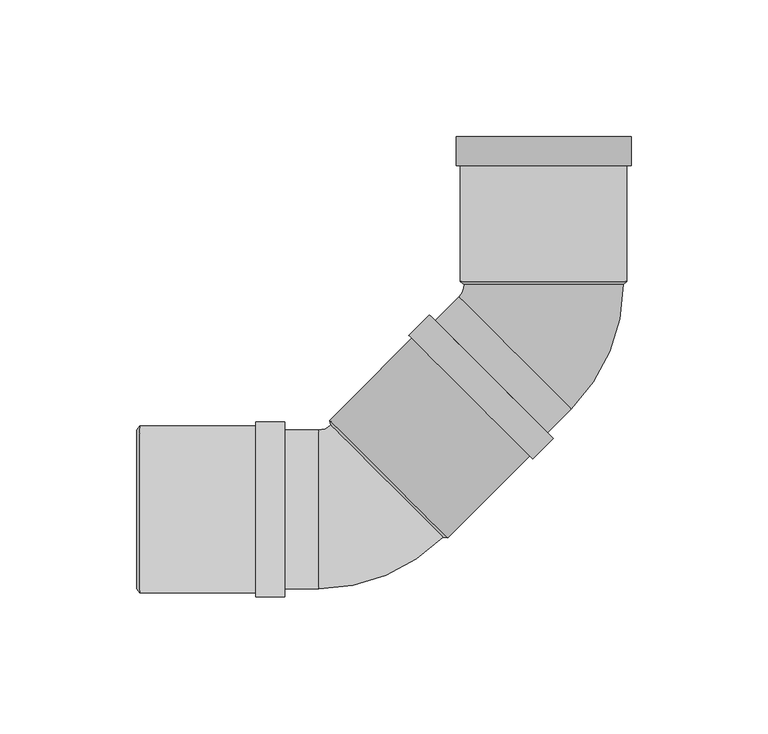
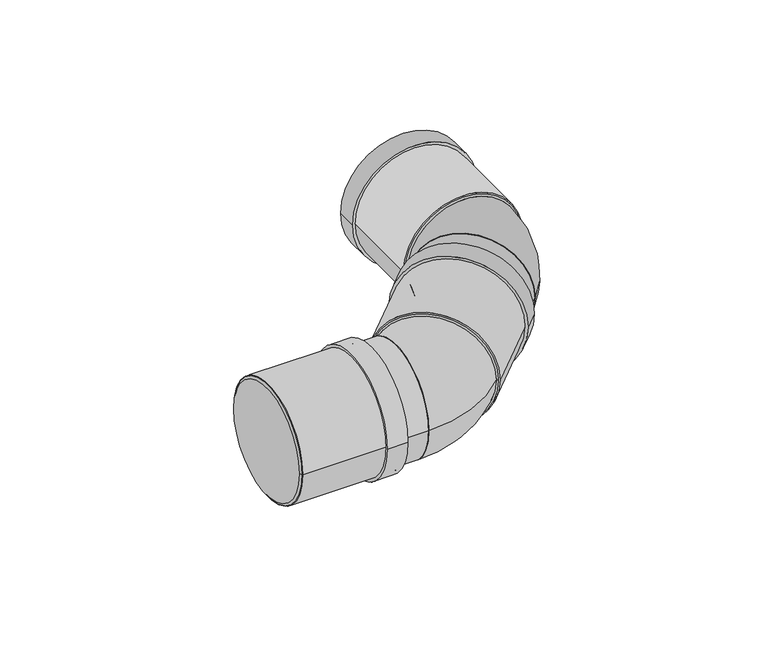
"""IFC4 building model written with IfcOpenShell, lengths in millimetres: pipe fitting geometry, Superdrain SK Bend_Composite 2x45 : Superdrain SK Bend_Composite 2x45."""

from ifc_helpers import new_model, si_unit, point, frame, origin, origin_2d, place, context, project, spatial, polyline, circle_curve, ellipse_curve, trimmed, segment, composite_curve, outline, extrude, source, transform, mapped, element, save
from ifc_brep_helpers import plane_surface, revolved_surface, advanced_brep


def pipe_fitting_b5ef0d84(model_context):
    return source(origin(), model_context, "Body", "SolidModel", [
        advanced_brep(
        [(29.0, 82.1994083, 0.0), (-29.0, 82.1994083, 0.0), (10.1823376, 36.7695526, 0.0), (-30.8298557, 77.7817459, 0.0)],
        [
            (0, 1, circle_curve(frame((0.0, 82.1994083, 0.0), z_axis=(0.0, 1.0, 0.0), x_axis=(-1.0, 0.0, 0.0)), 29.0)),
            (1, 0, circle_curve(frame((0.0, 82.1994083, 0.0), z_axis=(0.0, 1.0, 0.0), x_axis=(-1.0, 0.0, 0.0)), 29.0)),
            (2, 3, circle_curve(frame((-10.323759, 57.2756493, 0.0), z_axis=(-0.7071067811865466, -0.7071067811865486, 0.0), x_axis=(-0.7071067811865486, 0.7071067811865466, 0.0)), 29.0)),
            (3, 2, circle_curve(frame((-10.323759, 57.2756493, 0.0), z_axis=(-0.7071067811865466, -0.7071067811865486, 0.0), x_axis=(-0.7071067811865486, 0.7071067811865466, 0.0)), 29.0)),
            (3, 1, circle_curve(frame((-35.247518, 82.1994083, 0.0), z_axis=(0.0, 0.0, 1.0), x_axis=(0.707106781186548, 0.7071067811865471, 0.0)), 6.247518)),
            (0, 2, circle_curve(frame((-35.247518, 82.1994083, 0.0), z_axis=(0.0, 0.0, -1.0), x_axis=(0.707106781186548, 0.7071067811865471, 0.0)), 64.247518)),
        ],
        [
            plane_surface(frame((0.0, 82.1994083, 0.0), z_axis=(0.0, 1.0, 0.0), x_axis=(0.0, 0.0, -1.0))),
            plane_surface(frame((-10.323759, 57.2756493, 0.0), z_axis=(-0.7071067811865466, -0.7071067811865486, 0.0), x_axis=(0.0, 0.0, -1.0))),
            revolved_surface(trimmed(ellipse_curve(frame((-10.323759, 107.1231673, 0.0), z_axis=(0.7071067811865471, -0.707106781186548, 0.0), x_axis=(-0.707106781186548, -0.7071067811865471, 0.0)), 29.0, 29.0), [point((-30.8298557, 86.6170706, 0.0))], [point((10.1823376, 127.6292639, 0.0))], True, "CARTESIAN"), (-35.247518, 82.1994083, 0.0), (0.0, 0.0, 1.0)),
            revolved_surface(trimmed(ellipse_curve(frame((-10.323759, 107.1231673, 0.0), z_axis=(0.7071067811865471, -0.707106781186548, 0.0), x_axis=(-0.707106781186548, -0.7071067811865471, 0.0)), 29.0, 29.0), [point((10.1823376, 127.6292639, 0.0))], [point((-30.8298557, 86.6170706, 0.0))], True, "CARTESIAN"), (-35.247518, 82.1994083, 0.0), (0.0, 0.0, 1.0)),
        ],
        [
            (0, [[1, 2]]),
            (1, [[3, 4]]),
            (2, [[-4, 5, -1, 6]]),
            (3, [[-3, -6, -2, -5]]),
        ],
    ),
        extrude(outline(composite_curve([segment(trimmed(circle_curve(origin_2d(), 30.45), [point((0.0, 30.45))], [point((0.0, -30.45))], False, "CARTESIAN"), True, "CONTINUOUS"), segment(trimmed(circle_curve(origin_2d(), 30.45), [point((0.0, -30.45))], [point((0.0, 30.45))], False, "CARTESIAN"), True, "CONTINUOUS")], self_intersect=False), holes=[composite_curve([segment(trimmed(circle_curve(origin_2d(), 29.0), [point((0.0, 29.0))], [point((0.0, -29.0))], True, "CARTESIAN"), True, "CONTINUOUS"), segment(trimmed(circle_curve(origin_2d(), 29.0), [point((0.0, -29.0))], [point((0.0, 29.0))], True, "CARTESIAN"), True, "CONTINUOUS")], self_intersect=False)]), frame((0.0, 83.1994083, 0.0), z_axis=(0.0, 1.0, 0.0), x_axis=(0.0, 0.0, 1.0)), (0.0, 0.0, 1.0), 53.0),
        extrude(outline(composite_curve([segment(trimmed(circle_curve(origin_2d(), 31.9725), [point((0.0, -31.9725))], [point((0.0, 31.9725))], False, "CARTESIAN"), True, "CONTINUOUS"), segment(trimmed(circle_curve(origin_2d(), 31.9725), [point((0.0, 31.9725))], [point((0.0, -31.9725))], False, "CARTESIAN"), True, "CONTINUOUS")], self_intersect=False), holes=[composite_curve([segment(trimmed(circle_curve(origin_2d(), 29.0), [point((0.0, -29.0))], [point((0.0, 29.0))], True, "CARTESIAN"), True, "CONTINUOUS"), segment(trimmed(circle_curve(origin_2d(), 29.0), [point((0.0, 29.0))], [point((0.0, -29.0))], True, "CARTESIAN"), True, "CONTINUOUS")], self_intersect=False)]), frame((0.0, 125.5994083, 0.0), z_axis=(0.0, 1.0, 0.0), x_axis=(0.0, 0.0, 1.0)), (0.0, 0.0, 1.0), 10.6),
        advanced_brep(
        [(30.45, 83.1994083, 0.0), (-30.45, 83.1994083, 0.0), (29.0, 82.1994083, 0.0), (-29.0, 82.1994083, 0.0)],
        [
            (0, 1, circle_curve(frame((0.0, 83.1994083, 0.0), z_axis=(0.0, 1.0, 0.0), x_axis=(1.0, 0.0, 0.0)), 30.45)),
            (1, 0, circle_curve(frame((0.0, 83.1994083, 0.0), z_axis=(0.0, 1.0, 0.0), x_axis=(-1.0, 0.0, 0.0)), 30.45)),
            (2, 3, circle_curve(frame((0.0, 82.1994083, 0.0), z_axis=(0.0, -1.0, 0.0), x_axis=(-1.0, 0.0, 0.0)), 29.0)),
            (3, 2, circle_curve(frame((0.0, 82.1994083, 0.0), z_axis=(0.0, -1.0, 0.0), x_axis=(1.0, 0.0, 0.0)), 29.0)),
            (3, 1),
            (0, 2),
        ],
        [
            plane_surface(frame((0.0, 83.1994083, 0.0), z_axis=(0.0, 1.0, 0.0), x_axis=(0.0, 0.0, -1.0))),
            plane_surface(frame((0.0, 82.1994083, 0.0), z_axis=(0.0, -1.0, 0.0), x_axis=(0.0, 0.0, -1.0))),
            revolved_surface(polyline([(-28.999999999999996, 82.1994083, 0.0), (-30.45, 83.1994083, 0.0)]), (0.0, 62.1994083, 0.0), (0.0, 1.0, 0.0)),
            revolved_surface(polyline([(28.999999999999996, 82.1994083, 0.0), (30.45, 83.1994083, 0.0)]), (0.0, 62.1994083, 0.0), (0.0, 1.0, 0.0)),
        ],
        [
            (0, [[1, 2]]),
            (1, [[3, 4]]),
            (2, [[-4, 5, -1, 6]]),
            (3, [[-3, -6, -2, -5]]),
        ],
    ),
        extrude(outline(composite_curve([segment(trimmed(circle_curve(origin_2d(), 29.0), [point((0.0, -29.0000001))], [point((0.0, 28.9999999))], False, "CARTESIAN"), True, "CONTINUOUS"), segment(trimmed(circle_curve(origin_2d(), 29.0), [point((0.0, 28.9999999))], [point((0.0, -29.0000001))], False, "CARTESIAN"), True, "CONTINUOUS")], self_intersect=False)), frame((-56.5685425, 11.0308658, 0.0), z_axis=(0.707106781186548, 0.7071067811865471, 0.0), x_axis=(0.0, 0.0, -1.0)), (0.0, 0.0, 1.0), 65.4),
        extrude(outline(composite_curve([segment(trimmed(circle_curve(origin_2d(), 30.45), [point((30.45, 0.0))], [point((-30.45, 0.0))], False, "CARTESIAN"), True, "CONTINUOUS"), segment(trimmed(circle_curve(origin_2d(), 30.45), [point((-30.45, 0.0))], [point((30.45, 0.0))], False, "CARTESIAN"), True, "CONTINUOUS")], self_intersect=False), holes=[composite_curve([segment(trimmed(circle_curve(origin_2d(), 29.0), [point((29.0, 0.0))], [point((-29.0, 0.0))], True, "CARTESIAN"), True, "CONTINUOUS"), segment(trimmed(circle_curve(origin_2d(), 29.0), [point((-29.0, 0.0))], [point((29.0, 0.0))], True, "CARTESIAN"), True, "CONTINUOUS")], self_intersect=False)]), frame((-147.5994083, 0.0, 0.0), z_axis=(1.0, 0.0, 0.0), x_axis=(0.0, 1.0, 0.0)), (0.0, 0.0, 1.0), 53.0),
        extrude(outline(composite_curve([segment(trimmed(circle_curve(origin_2d(), 31.9725), [point((31.9725, 0.0))], [point((-31.9725, 0.0))], False, "CARTESIAN"), True, "CONTINUOUS"), segment(trimmed(circle_curve(origin_2d(), 31.9725), [point((-31.9725, 0.0))], [point((31.9725, 0.0))], False, "CARTESIAN"), True, "CONTINUOUS")], self_intersect=False), holes=[composite_curve([segment(trimmed(circle_curve(origin_2d(), 29.0), [point((29.0, 0.0))], [point((-29.0, 0.0))], True, "CARTESIAN"), True, "CONTINUOUS"), segment(trimmed(circle_curve(origin_2d(), 29.0), [point((-29.0, 0.0))], [point((29.0, 0.0))], True, "CARTESIAN"), True, "CONTINUOUS")], self_intersect=False)]), frame((-105.1994083, 0.0, 0.0), z_axis=(1.0, 0.0, 0.0), x_axis=(0.0, 1.0, 0.0)), (0.0, 0.0, 1.0), 10.6),
        advanced_brep(
        [(-148.5994083, 29.0, 0.0), (-148.5994083, -29.0, 0.0), (-147.5994083, 30.45, 0.0), (-147.5994083, -30.45, 0.0)],
        [
            (0, 1, circle_curve(frame((-148.5994083, 0.0, 0.0), z_axis=(-1.0, 0.0, 0.0), x_axis=(0.0, 1.0, 0.0)), 29.0)),
            (1, 0, circle_curve(frame((-148.5994083, 0.0, 0.0), z_axis=(-1.0, 0.0, 0.0), x_axis=(0.0, -1.0, 0.0)), 29.0)),
            (2, 3, circle_curve(frame((-147.5994083, 0.0, 0.0), z_axis=(1.0, 0.0, 0.0), x_axis=(0.0, -1.0, 0.0)), 30.45)),
            (3, 2, circle_curve(frame((-147.5994083, 0.0, 0.0), z_axis=(1.0, 0.0, 0.0), x_axis=(0.0, 1.0, 0.0)), 30.45)),
            (3, 1),
            (0, 2),
        ],
        [
            plane_surface(frame((-148.5994083, 0.0, 0.0), z_axis=(-1.0, 0.0, 0.0), x_axis=(0.0, 0.0, -1.0))),
            plane_surface(frame((-147.5994083, 0.0, 0.0), z_axis=(1.0, 0.0, 0.0), x_axis=(0.0, 0.0, -1.0))),
            revolved_surface(polyline([(-148.5994083, 28.999999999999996, 0.0), (-147.5994083, 30.45, 0.0)]), (-168.5994083, 0.0, 0.0), (1.0, 0.0, 0.0)),
            revolved_surface(polyline([(-148.5994083, -28.999999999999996, 0.0), (-147.5994083, -30.45, 0.0)]), (-168.5994083, 0.0, 0.0), (1.0, 0.0, 0.0)),
        ],
        [
            (0, [[1, 2]]),
            (1, [[3, 4]]),
            (2, [[-4, 5, -1, 6]]),
            (3, [[-3, -6, -2, -5]]),
        ],
    ),
        advanced_brep(
        [(-36.7695526, -10.1823376, 0.0), (-77.7817459, 30.8298557, 0.0), (-82.1994083, -29.0, 0.0), (-82.1994083, 29.0, 0.0)],
        [
            (0, 1, circle_curve(frame((-57.2756493, 10.323759, 0.0), z_axis=(0.7071067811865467, 0.7071067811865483, 0.0), x_axis=(-0.7071067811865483, 0.7071067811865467, 0.0)), 29.0)),
            (1, 0, circle_curve(frame((-57.2756493, 10.323759, 0.0), z_axis=(0.7071067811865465, 0.7071067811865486, 0.0), x_axis=(-0.7071067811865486, 0.7071067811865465, 0.0)), 29.0)),
            (2, 3, circle_curve(frame((-82.1994083, 0.0, 0.0), z_axis=(-1.0, 0.0, 0.0), x_axis=(0.0, 1.0, 0.0)), 29.0)),
            (3, 2, circle_curve(frame((-82.1994083, 0.0, 0.0), z_axis=(-1.0, 0.0, 0.0), x_axis=(0.0, 1.0, 0.0)), 29.0)),
            (3, 1, circle_curve(frame((-82.1994083, 35.247518, 0.0), z_axis=(0.0, 0.0, 1.0), x_axis=(1.0, 0.0, 0.0)), 6.247518)),
            (0, 2, circle_curve(frame((-82.1994083, 35.247518, 0.0), z_axis=(0.0, 0.0, -1.0), x_axis=(1.0, 0.0, 0.0)), 64.247518)),
        ],
        [
            plane_surface(frame((-57.2756493, 10.323759, 0.0), z_axis=(0.7071067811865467, 0.7071067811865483, 0.0), x_axis=(0.0, 0.0, -1.0))),
            plane_surface(frame((-82.1994083, 0.0, 0.0), z_axis=(-1.0, 0.0, 0.0), x_axis=(0.0, 0.0, -1.0))),
            revolved_surface(trimmed(ellipse_curve(frame((-46.9518903, 35.247518, 0.0), z_axis=(0.0, -1.0, 0.0), x_axis=(-1.0, 0.0, 0.0)), 29.0, 29.0), [point((-75.9518903, 35.247518, 0.0))], [point((-17.9518903, 35.247518, 0.0))], True, "CARTESIAN"), (-82.1994083, 35.247518, 0.0), (0.0, 0.0, 1.0)),
            revolved_surface(trimmed(ellipse_curve(frame((-46.9518903, 35.247518, 0.0), z_axis=(0.0, -1.0, 0.0), x_axis=(-1.0, 0.0, 0.0)), 29.0, 29.0), [point((-17.9518903, 35.247518, 0.0))], [point((-75.9518903, 35.247518, 0.0))], True, "CARTESIAN"), (-82.1994083, 35.247518, 0.0), (0.0, 0.0, 1.0)),
        ],
        [
            (0, [[1, 2]]),
            (1, [[3, 4]]),
            (2, [[-4, 5, -1, 6]]),
            (3, [[-3, -6, -2, -5]]),
        ],
    ),
        extrude(outline(composite_curve([segment(trimmed(circle_curve(origin_2d(), 30.45), [point((0.0, 30.45))], [point((0.0, -30.45))], False, "CARTESIAN"), True, "CONTINUOUS"), segment(trimmed(circle_curve(origin_2d(), 30.45), [point((0.0, -30.45))], [point((0.0, 30.45))], False, "CARTESIAN"), True, "CONTINUOUS")], self_intersect=False), holes=[composite_curve([segment(trimmed(circle_curve(origin_2d(), 29.0), [point((0.0, 29.0000001))], [point((0.0, -28.9999999))], True, "CARTESIAN"), True, "CONTINUOUS"), segment(trimmed(circle_curve(origin_2d(), 29.0), [point((0.0, -28.9999999))], [point((0.0, 29.0000001))], True, "CARTESIAN"), True, "CONTINUOUS")], self_intersect=False)]), frame((-56.5685425, 11.0308658, 0.0), z_axis=(0.7071067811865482, 0.7071067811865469, 0.0), x_axis=(0.0, 0.0, 1.0)), (0.0, 0.0, 1.0), 53.0),
        extrude(outline(composite_curve([segment(trimmed(circle_curve(origin_2d(), 31.9725), [point((0.0, -31.9725))], [point((0.0, 31.9725001))], False, "CARTESIAN"), True, "CONTINUOUS"), segment(trimmed(circle_curve(origin_2d(), 31.9725), [point((0.0, 31.9725001))], [point((0.0, -31.9725))], False, "CARTESIAN"), True, "CONTINUOUS")], self_intersect=False), holes=[composite_curve([segment(trimmed(circle_curve(origin_2d(), 29.0), [point((0.0, -29.0))], [point((0.0, 29.0))], True, "CARTESIAN"), True, "CONTINUOUS"), segment(trimmed(circle_curve(origin_2d(), 29.0), [point((0.0, 29.0))], [point((0.0, -29.0))], True, "CARTESIAN"), True, "CONTINUOUS")], self_intersect=False)]), frame((-26.587215, 41.0121933, 0.0), z_axis=(0.7071067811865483, 0.7071067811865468, 0.0), x_axis=(0.0, 0.0, 1.0)), (0.0, 0.0, 1.0), 10.6),
        advanced_brep(
        [(-35.037141, -10.5005357, 0.0), (-78.099944, 32.5622673, 0.0), (-36.7695526, -10.1823376, 0.0), (-77.7817459, 30.8298557, 0.0)],
        [
            (0, 1, circle_curve(frame((-56.5685425, 11.0308658, 0.0), z_axis=(0.7071067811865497, 0.7071067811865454, 0.0), x_axis=(0.7071067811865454, -0.7071067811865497, 0.0)), 30.45)),
            (1, 0, circle_curve(frame((-56.5685425, 11.0308658, 0.0), z_axis=(0.7071067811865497, 0.7071067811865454, 0.0), x_axis=(-0.7071067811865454, 0.7071067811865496, 0.0)), 30.45)),
            (2, 3, circle_curve(frame((-57.2756493, 10.323759, 0.0), z_axis=(-0.7071067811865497, -0.7071067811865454, 0.0), x_axis=(-0.7071067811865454, 0.7071067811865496, 0.0)), 29.0)),
            (3, 2, circle_curve(frame((-57.2756493, 10.323759, 0.0), z_axis=(-0.7071067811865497, -0.7071067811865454, 0.0), x_axis=(0.7071067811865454, -0.7071067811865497, 0.0)), 29.0)),
            (3, 1),
            (0, 2),
        ],
        [
            plane_surface(frame((-56.5685425, 11.0308658, 0.0), z_axis=(0.7071067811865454, 0.7071067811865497, 0.0), x_axis=(0.0, 0.0, -1.0))),
            plane_surface(frame((-57.2756493, 10.323759, 0.0), z_axis=(-0.7071067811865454, -0.7071067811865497, 0.0), x_axis=(0.0, 0.0, -1.0))),
            revolved_surface(polyline([(-77.78174593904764, 30.829855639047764, 0.0), (-78.09994400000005, 32.562267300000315, 0.0)]), (-71.4177849, -3.8183766, 0.0), (0.7071067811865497, 0.7071067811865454, 0.0)),
            revolved_surface(polyline([(-36.769552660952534, -10.18233763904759, 0.0), (-35.037141, -10.5005357, 0.0)]), (-71.4177849, -3.8183766, 0.0), (0.7071067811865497, 0.7071067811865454, 0.0)),
        ],
        [
            (0, [[1, 2]]),
            (1, [[3, 4]]),
            (2, [[-4, 5, -1, 6]]),
            (3, [[-3, -6, -2, -5]]),
        ],
    ),
        extrude(outline(composite_curve([segment(trimmed(circle_curve(origin_2d(), 29.0), [point((-29.0, 0.0))], [point((29.0, 0.0))], False, "CARTESIAN"), True, "CONTINUOUS"), segment(trimmed(circle_curve(origin_2d(), 29.0), [point((29.0, 0.0))], [point((-29.0, 0.0))], False, "CARTESIAN"), True, "CONTINUOUS")], self_intersect=False)), frame((-147.5994083, 0.0, 0.0), z_axis=(1.0, 0.0, 0.0), x_axis=(0.0, 1.0, 0.0)), (0.0, 0.0, 1.0), 65.4),
    ])


if __name__ == "__main__":
    model = new_model("IFC4")
    model_context = context("Model", 3, world=origin())
    ifc_project = project(units=[si_unit("LENGTHUNIT", "METRE", prefix="MILLI")], contexts=[model_context])
    site = spatial("IfcSite", under=ifc_project)
    building = spatial("IfcBuilding", under=site)
    placement = place(None, origin())
    pipe_fitting_shape = pipe_fitting_b5ef0d84(model_context)
    element("IfcPipeFitting", 1, ObjectType="Superdrain SK Bend_Composite 2x45 : Superdrain SK Bend_Composite 2x45", at=placement, inside=building, context=model_context, shape_type="MappedRepresentation", body=[
        mapped(pipe_fitting_shape, transform((0.0, 0.0, 0.0), x_axis=(1.0, 0.0, 0.0), y_axis=(0.0, 1.0, 0.0), z_axis=(0.0, 0.0, 1.0))),
    ])
    save(model, "model.ifc")
